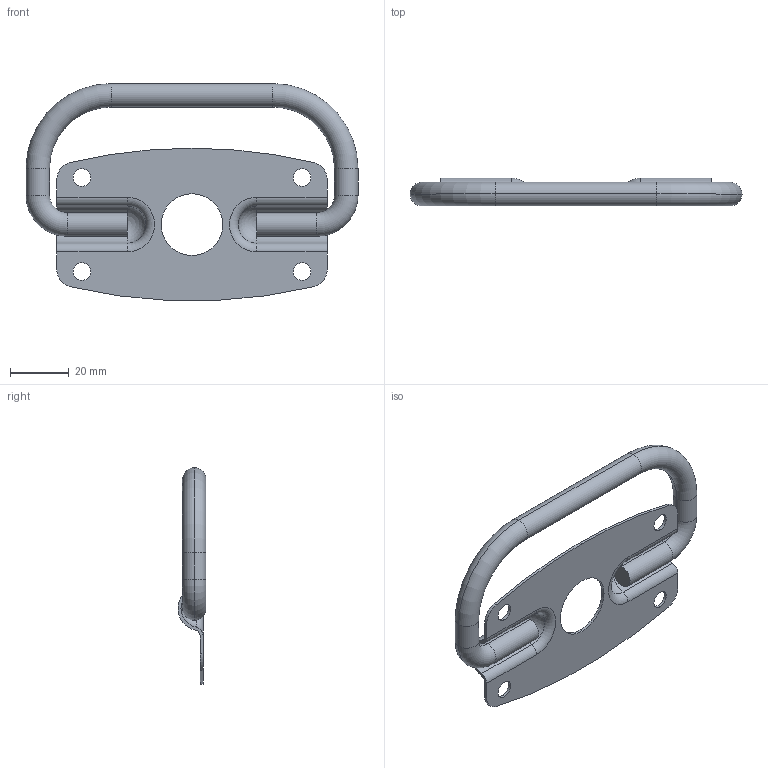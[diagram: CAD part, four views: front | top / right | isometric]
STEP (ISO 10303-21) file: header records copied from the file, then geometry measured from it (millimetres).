
FILE_DESCRIPTION (( 'STEP AP214' ), '1' );
FILE_NAME ('LS023.STEP', '2023-06-28T01:45:09', ( 'Windows 蚚誧' ), ( '' ), 'SwSTEP 2.0', 'SolidWorks 2019', '' );
FILE_SCHEMA (( 'AUTOMOTIVE_DESIGN' ));
Length unit declared in the file: millimetre
Products named in the file (1): LS023
Bounding box: 113 x 9.5 x 73.81 mm (x, y, z)
Volume: 15685 mm3; surface area: 15002.3 mm2
Topology: 2 solids, 2 shells, 61 faces, 155 edges, 94 vertices
Faces by surface type: cylinder 39, torus 12, plane 6, sphere 4
Entity records: 1866 total; most frequent: DIRECTION 365, CARTESIAN_POINT 299, ORIENTED_EDGE 294, AXIS2_PLACEMENT_3D 156, EDGE_CURVE 147, CIRCLE 94, VERTEX_POINT 90, EDGE_LOOP 71
